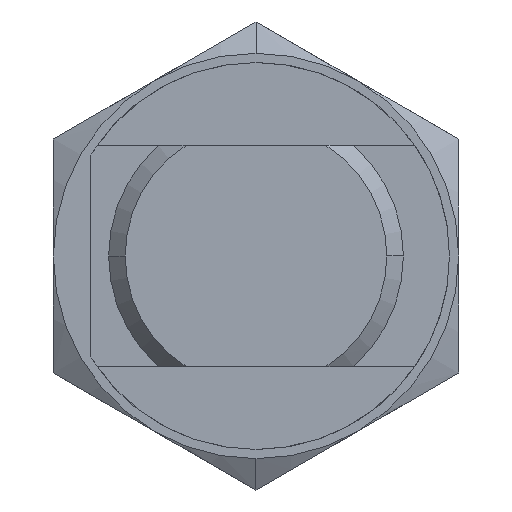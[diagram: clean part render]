
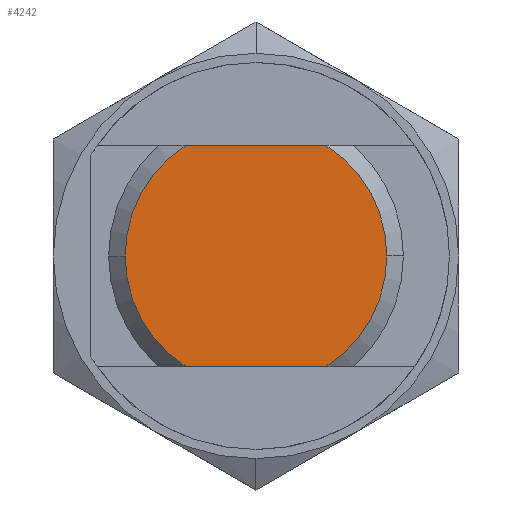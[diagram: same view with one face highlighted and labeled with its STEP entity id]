
A CAD part, front view. The second image highlights one B-rep face of the part: STEP entity #4242.
In plain terms, the highlighted planar face has unit normal (0, -1, 0).
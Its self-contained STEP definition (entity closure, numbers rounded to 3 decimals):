
#3406=CARTESIAN_POINT('',(7.1,0.0,0.));
#3407=VERTEX_POINT('',#3406);
#3414=CARTESIAN_POINT('',(3.796,0.0,-6.));
#3415=VERTEX_POINT('',#3414);
#3416=CARTESIAN_POINT('',(0.0,0.0,0.0));
#3417=DIRECTION('',(0.0,1.0,0.0));
#3418=DIRECTION('',(1.0,0.0,0.0));
#3419=AXIS2_PLACEMENT_3D('',#3416,#3417,#3418);
#3420=CIRCLE('',#3419,7.1);
#3421=EDGE_CURVE('',#3407,#3415,#3420,.T.);
#3495=CARTESIAN_POINT('',(-7.1,0.0,0.));
#3496=VERTEX_POINT('',#3495);
#3503=CARTESIAN_POINT('',(-3.796,0.0,6.));
#3504=VERTEX_POINT('',#3503);
#3505=CARTESIAN_POINT('',(0.0,0.0,0.0));
#3506=DIRECTION('',(0.0,1.0,0.0));
#3507=DIRECTION('',(-1.0,0.0,0.0));
#3508=AXIS2_PLACEMENT_3D('',#3505,#3506,#3507);
#3509=CIRCLE('',#3508,7.1);
#3510=EDGE_CURVE('',#3496,#3504,#3509,.T.);
#3544=CARTESIAN_POINT('',(-3.796,0.0,-6.));
#3545=VERTEX_POINT('',#3544);
#3559=CARTESIAN_POINT('',(0.0,0.0,0.0));
#3560=DIRECTION('',(0.0,1.0,0.0));
#3561=DIRECTION('',(-1.0,0.0,0.0));
#3562=AXIS2_PLACEMENT_3D('',#3559,#3560,#3561);
#3563=CIRCLE('',#3562,7.1);
#3564=EDGE_CURVE('',#3545,#3496,#3563,.T.);
#3600=CARTESIAN_POINT('',(3.796,0.0,6.));
#3601=VERTEX_POINT('',#3600);
#3602=CARTESIAN_POINT('',(3.796,0.0,6.));
#3603=DIRECTION('',(-1.0,0.0,0.0));
#3604=VECTOR('',#3603,7.592);
#3605=LINE('',#3602,#3604);
#3606=EDGE_CURVE('',#3601,#3504,#3605,.T.);
#3664=CARTESIAN_POINT('',(0.0,0.0,0.0));
#3665=DIRECTION('',(0.0,1.0,0.0));
#3666=DIRECTION('',(1.0,0.0,0.0));
#3667=AXIS2_PLACEMENT_3D('',#3664,#3665,#3666);
#3668=CIRCLE('',#3667,7.1);
#3669=EDGE_CURVE('',#3601,#3407,#3668,.T.);
#3746=CARTESIAN_POINT('',(-3.796,0.0,-6.));
#3747=DIRECTION('',(1.0,0.0,0.0));
#3748=VECTOR('',#3747,7.592);
#3749=LINE('',#3746,#3748);
#3750=EDGE_CURVE('',#3545,#3415,#3749,.T.);
#4229=CARTESIAN_POINT('',(-4.,0.0,0.0));
#4230=DIRECTION('',(0.0,-1.0,0.0));
#4231=DIRECTION('',(0.0,0.0,-1.0));
#4232=AXIS2_PLACEMENT_3D('',#4229,#4230,#4231);
#4233=PLANE('',#4232);
#4234=ORIENTED_EDGE('',*,*,#3564,.F.);
#4235=ORIENTED_EDGE('',*,*,#3750,.T.);
#4236=ORIENTED_EDGE('',*,*,#3421,.F.);
#4237=ORIENTED_EDGE('',*,*,#3669,.F.);
#4238=ORIENTED_EDGE('',*,*,#3606,.T.);
#4239=ORIENTED_EDGE('',*,*,#3510,.F.);
#4240=EDGE_LOOP('',(#4234,#4235,#4236,#4237,#4238,#4239));
#4241=FACE_OUTER_BOUND('',#4240,.T.);
#4242=ADVANCED_FACE('',(#4241),#4233,.T.);
